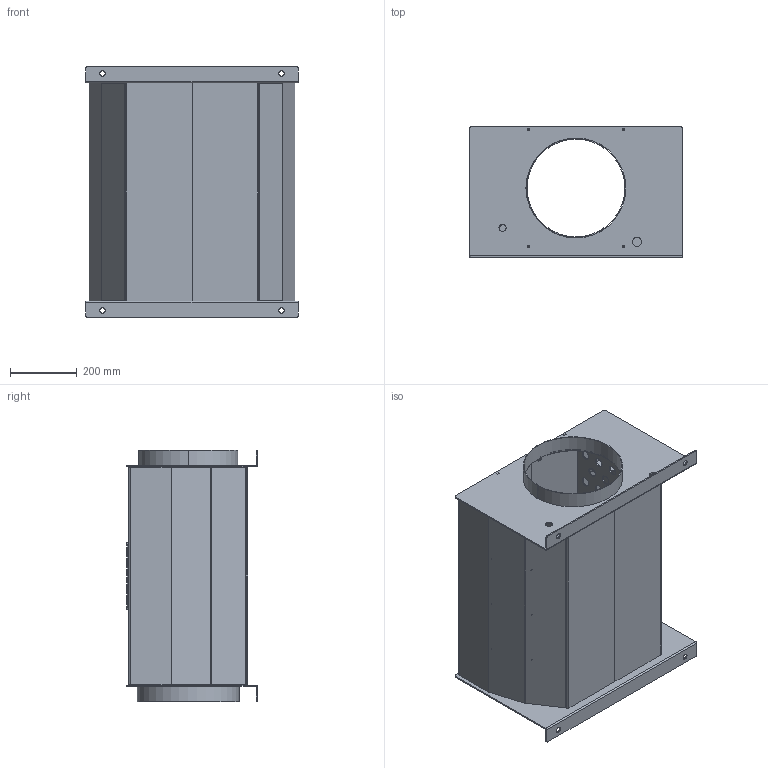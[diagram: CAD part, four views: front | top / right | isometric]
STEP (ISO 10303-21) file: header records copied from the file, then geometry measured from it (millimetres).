
FILE_DESCRIPTION (( 'STEP AP203' ), '1' );
FILE_NAME ('RACS 300.STEP', '2013-03-13T12:11:33', ( 'Utente' ), ( '' ), 'SwSTEP 2.0', 'SolidWorks 2007', '' );
FILE_SCHEMA (( 'CONFIG_CONTROL_DESIGN' ));
Length unit declared in the file: millimetre
Products named in the file (9): RACS 300; Testata idraulica RACS 300; Uscita fumi RACS 300; Ingresso fumi RACS 300; Piastra uscita fumi RACS 300; Piastra tubiera RACS 300; Piastra ingresso fumi RACS 300; Nervatura RACS 300; Coperchio ispezione RACS 300
Assembly tree (15 placements, depth 2):
  RACS 300
    Nervatura RACS 300  x6
    Piastra tubiera RACS 300  x2
    Ingresso fumi RACS 300
    Piastra ingresso fumi RACS 300
    Coperchio ispezione RACS 300
    Piastra uscita fumi RACS 300
    Testata idraulica RACS 300  x2
    Uscita fumi RACS 300
Bounding box: 636 x 391.8 x 753.6 mm (x, y, z)
Volume: 8143163 mm3; surface area: 4306913.6 mm2
Topology: 15 solids, 15 shells, 611 faces, 1647 edges, 1066 vertices
Faces by surface type: cylinder 331, plane 280
Entity records: 11970 total; most frequent: DIRECTION 1967, CARTESIAN_POINT 1812, ORIENTED_EDGE 1778, EDGE_CURVE 889, AXIS2_PLACEMENT_3D 729, VERTEX_POINT 574, VECTOR 509, LINE 509
